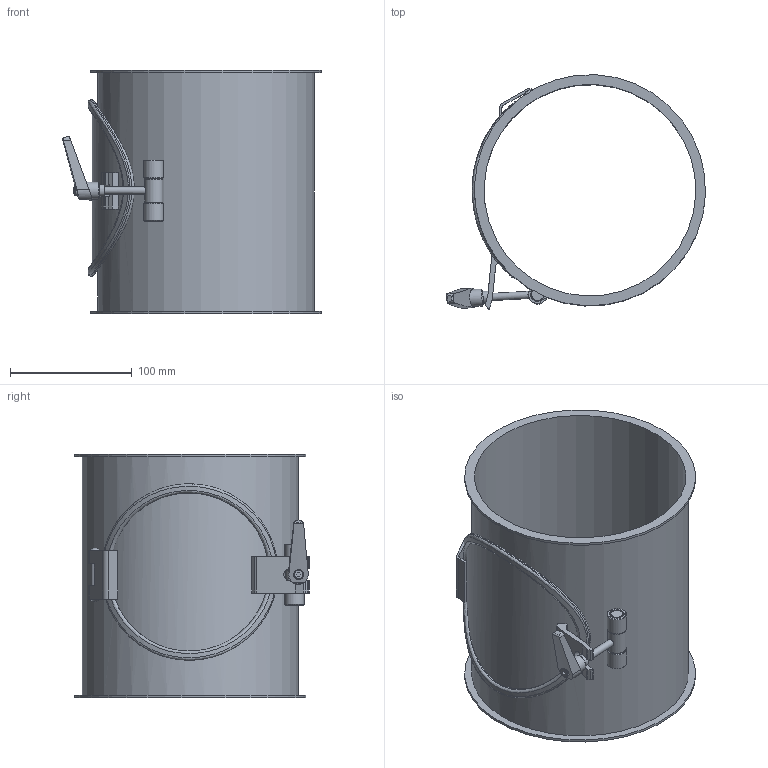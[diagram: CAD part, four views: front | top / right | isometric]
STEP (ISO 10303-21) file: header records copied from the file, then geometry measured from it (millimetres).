
FILE_DESCRIPTION((''),'2;1');
FILE_NAME('U:\Wolfgang\Marcel-3D\fertig\Kapitel 4\1721043.stp','2011-04-21T08:49:51',('TK1'),(''),'Autodesk Inventor 2010','Autodesk Inventor 2010','');
FILE_SCHEMA(('AUTOMOTIVE_DESIGN { 1 0 10303 214 1 1 1 1 }'));
Length unit declared in the file: millimetre
Products named in the file (12): 1721043 (Detailgenauigkeit1); 1721043-1; GelenkDeckel1c; Deckel172; Deckel17b; GelenkDeckel1a; dichtung17; Halterung Deckel17; VerschlussB; Verschluss1; Verschluss2; Verstellbarer Klemmhebel GN 101-14-M6-SW
Assembly tree (12 placements, depth 3):
  1721043 (Detailgenauigkeit1)
    1721043-1
    GelenkDeckel1c
    Deckel172
      Deckel17b
      GelenkDeckel1a
      dichtung17
      Halterung Deckel17
    VerschlussB
      Verschluss1  x2
      Verschluss2
    Verstellbarer Klemmhebel GN 101-14-M6-SW
Bounding box: 212.73 x 192.62 x 200 mm (x, y, z)
Volume: 270187.6 mm3; surface area: 275431.7 mm2
Topology: 10 solids, 10 shells, 130 faces, 295 edges, 193 vertices
Faces by surface type: plane 58, cylinder 43, cone 18, torus 5, bspline 4, sphere 2
Full cylindrical faces by diameter (mm): 4.8 x1, 6 x4, 8 x1, 10 x3, 11 x2, 14 x1, 15 x1, 16 x2, 115 x1, 130 x1, 135 x1, 145 x1, 174 x1, 178 x1, 190 x2
Entity records: 5442 total; most frequent: CARTESIAN_POINT 2525, DIRECTION 562, ORIENTED_EDGE 468, EDGE_CURVE 234, AXIS2_PLACEMENT_3D 224, EDGE_LOOP 177, VERTEX_POINT 173, FACE_OUTER_BOUND 122
